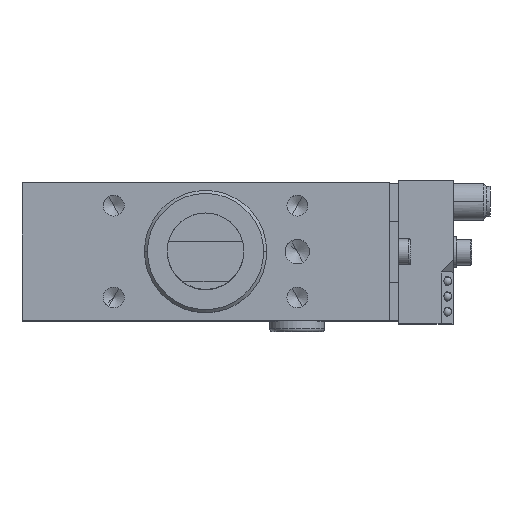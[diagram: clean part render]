
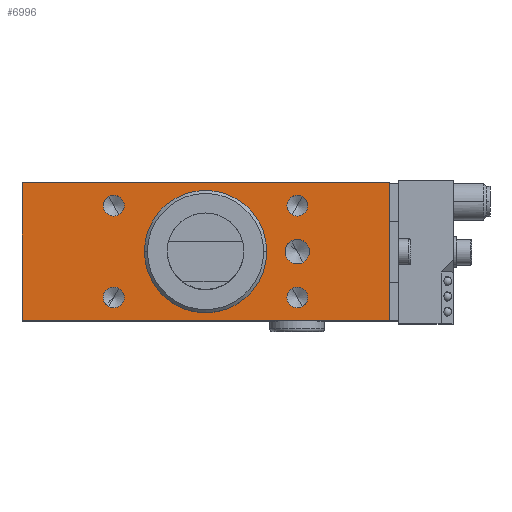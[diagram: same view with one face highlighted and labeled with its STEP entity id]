
A CAD part, top view. The second image highlights one B-rep face of the part: STEP entity #6996.
In plain terms, the highlighted planar face has unit normal (0, 0, 1).
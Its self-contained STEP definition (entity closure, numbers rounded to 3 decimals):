
#4007=AXIS2_PLACEMENT_3D('Circle Axis2P3D',#4005,#4006,$) ;
#4048=AXIS2_PLACEMENT_3D('Circle Axis2P3D',#4046,#4047,$) ;
#4550=AXIS2_PLACEMENT_3D('Circle Axis2P3D',#4548,#4549,$) ;
#4589=AXIS2_PLACEMENT_3D('Circle Axis2P3D',#4587,#4588,$) ;
#5606=AXIS2_PLACEMENT_3D('Circle Axis2P3D',#5604,#5605,$) ;
#5645=AXIS2_PLACEMENT_3D('Circle Axis2P3D',#5643,#5644,$) ;
#6082=AXIS2_PLACEMENT_3D('Circle Axis2P3D',#6080,#6081,$) ;
#6123=AXIS2_PLACEMENT_3D('Circle Axis2P3D',#6121,#6122,$) ;
#6572=AXIS2_PLACEMENT_3D('Circle Axis2P3D',#6570,#6571,$) ;
#6613=AXIS2_PLACEMENT_3D('Circle Axis2P3D',#6611,#6612,$) ;
#6931=AXIS2_PLACEMENT_3D('Plane Axis2P3D',#6928,#6929,#6930) ;
#6960=AXIS2_PLACEMENT_3D('Circle Axis2P3D',#6958,#6959,$) ;
#6969=AXIS2_PLACEMENT_3D('Circle Axis2P3D',#6967,#6968,$) ;
#3707=CARTESIAN_POINT('Vertex',(60.,-22.5,0.)) ;
#3710=CARTESIAN_POINT('Line Origine',(0.,-22.5,0.)) ;
#3714=CARTESIAN_POINT('Vertex',(-60.,-22.5,0.)) ;
#4000=CARTESIAN_POINT('Vertex',(26.,0.,0.)) ;
#4005=CARTESIAN_POINT('Axis2P3D Location',(30.,0.,0.)) ;
#4009=CARTESIAN_POINT('Vertex',(34.,0.,0.)) ;
#4046=CARTESIAN_POINT('Axis2P3D Location',(30.,0.,0.)) ;
#4545=CARTESIAN_POINT('Vertex',(33.4,15.,0.)) ;
#4548=CARTESIAN_POINT('Axis2P3D Location',(30.,15.,0.)) ;
#4552=CARTESIAN_POINT('Vertex',(26.6,15.,0.)) ;
#4587=CARTESIAN_POINT('Axis2P3D Location',(30.,15.,0.)) ;
#5601=CARTESIAN_POINT('Vertex',(-33.4,-15.,0.)) ;
#5604=CARTESIAN_POINT('Axis2P3D Location',(-30.,-15.,0.)) ;
#5608=CARTESIAN_POINT('Vertex',(-26.6,-15.,0.)) ;
#5643=CARTESIAN_POINT('Axis2P3D Location',(-30.,-15.,0.)) ;
#6075=CARTESIAN_POINT('Vertex',(33.4,-15.,0.)) ;
#6080=CARTESIAN_POINT('Axis2P3D Location',(30.,-15.,0.)) ;
#6084=CARTESIAN_POINT('Vertex',(26.6,-15.,0.)) ;
#6121=CARTESIAN_POINT('Axis2P3D Location',(30.,-15.,0.)) ;
#6565=CARTESIAN_POINT('Vertex',(-33.4,15.,0.)) ;
#6570=CARTESIAN_POINT('Axis2P3D Location',(-30.,15.,0.)) ;
#6574=CARTESIAN_POINT('Vertex',(-26.6,15.,0.)) ;
#6611=CARTESIAN_POINT('Axis2P3D Location',(-30.,15.,0.)) ;
#6928=CARTESIAN_POINT('Axis2P3D Location',(0.,0.,0.)) ;
#6933=CARTESIAN_POINT('Line Origine',(-60.,0.,0.)) ;
#6937=CARTESIAN_POINT('Vertex',(-60.,22.5,0.)) ;
#6940=CARTESIAN_POINT('Line Origine',(60.,0.,0.)) ;
#6944=CARTESIAN_POINT('Vertex',(60.,22.5,0.)) ;
#6947=CARTESIAN_POINT('Line Origine',(0.,22.5,0.)) ;
#6958=CARTESIAN_POINT('Axis2P3D Location',(0.,0.,0.)) ;
#6962=CARTESIAN_POINT('Vertex',(-20.,0.,0.)) ;
#6964=CARTESIAN_POINT('Vertex',(20.,0.,0.)) ;
#6967=CARTESIAN_POINT('Axis2P3D Location',(0.,0.,0.)) ;
#3711=DIRECTION('Vector Direction',(-1.,0.,0.)) ;
#4006=DIRECTION('Axis2P3D Direction',(0.,0.,1.)) ;
#4047=DIRECTION('Axis2P3D Direction',(0.,0.,1.)) ;
#4549=DIRECTION('Axis2P3D Direction',(0.,0.,-1.)) ;
#4588=DIRECTION('Axis2P3D Direction',(0.,0.,-1.)) ;
#5605=DIRECTION('Axis2P3D Direction',(0.,0.,-1.)) ;
#5644=DIRECTION('Axis2P3D Direction',(0.,0.,-1.)) ;
#6081=DIRECTION('Axis2P3D Direction',(0.,0.,1.)) ;
#6122=DIRECTION('Axis2P3D Direction',(0.,0.,1.)) ;
#6571=DIRECTION('Axis2P3D Direction',(0.,0.,1.)) ;
#6612=DIRECTION('Axis2P3D Direction',(0.,0.,1.)) ;
#6929=DIRECTION('Axis2P3D Direction',(0.,0.,1.)) ;
#6930=DIRECTION('Axis2P3D XDirection',(0.,-1.,0.)) ;
#6934=DIRECTION('Vector Direction',(0.,1.,0.)) ;
#6941=DIRECTION('Vector Direction',(0.,-1.,0.)) ;
#6948=DIRECTION('Vector Direction',(1.,0.,0.)) ;
#6959=DIRECTION('Axis2P3D Direction',(0.,0.,1.)) ;
#6968=DIRECTION('Axis2P3D Direction',(0.,0.,1.)) ;
#3712=VECTOR('Line Direction',#3711,1.) ;
#6935=VECTOR('Line Direction',#6934,1.) ;
#6942=VECTOR('Line Direction',#6941,1.) ;
#6949=VECTOR('Line Direction',#6948,1.) ;
#6953=ORIENTED_EDGE('',*,*,#6939,.T.) ;
#6954=ORIENTED_EDGE('',*,*,#3716,.T.) ;
#6955=ORIENTED_EDGE('',*,*,#6946,.T.) ;
#6956=ORIENTED_EDGE('',*,*,#6951,.T.) ;
#6973=ORIENTED_EDGE('',*,*,#6966,.T.) ;
#6974=ORIENTED_EDGE('',*,*,#6971,.T.) ;
#6977=ORIENTED_EDGE('',*,*,#6576,.F.) ;
#6978=ORIENTED_EDGE('',*,*,#6615,.F.) ;
#6981=ORIENTED_EDGE('',*,*,#5647,.T.) ;
#6982=ORIENTED_EDGE('',*,*,#5610,.T.) ;
#6985=ORIENTED_EDGE('',*,*,#4591,.T.) ;
#6986=ORIENTED_EDGE('',*,*,#4554,.T.) ;
#6989=ORIENTED_EDGE('',*,*,#6125,.F.) ;
#6990=ORIENTED_EDGE('',*,*,#6086,.F.) ;
#6993=ORIENTED_EDGE('',*,*,#4011,.F.) ;
#6994=ORIENTED_EDGE('',*,*,#4050,.F.) ;
#6975=FACE_BOUND('',#6972,.T.) ;
#6979=FACE_BOUND('',#6976,.T.) ;
#6983=FACE_BOUND('',#6980,.T.) ;
#6987=FACE_BOUND('',#6984,.T.) ;
#6991=FACE_BOUND('',#6988,.T.) ;
#6995=FACE_BOUND('',#6992,.T.) ;
#6996=ADVANCED_FACE('SZK_63_1_BR3_A22_T12_TUENKERS',(#6957,#6975,#6979,#6983,#6987,#6991,#6995),#6932,.T.) ;
#4008=CIRCLE('generated circle',#4007,4.) ;
#4049=CIRCLE('generated circle',#4048,4.) ;
#4551=CIRCLE('generated circle',#4550,3.4) ;
#4590=CIRCLE('generated circle',#4589,3.4) ;
#5607=CIRCLE('generated circle',#5606,3.4) ;
#5646=CIRCLE('generated circle',#5645,3.4) ;
#6083=CIRCLE('generated circle',#6082,3.4) ;
#6124=CIRCLE('generated circle',#6123,3.4) ;
#6573=CIRCLE('generated circle',#6572,3.4) ;
#6614=CIRCLE('generated circle',#6613,3.4) ;
#6961=CIRCLE('generated circle',#6960,20.) ;
#6970=CIRCLE('generated circle',#6969,20.) ;
#3716=EDGE_CURVE('',#3715,#3708,#3713,.F.) ;
#4011=EDGE_CURVE('',#4001,#4010,#4008,.T.) ;
#4050=EDGE_CURVE('',#4010,#4001,#4049,.T.) ;
#4554=EDGE_CURVE('',#4553,#4546,#4551,.T.) ;
#4591=EDGE_CURVE('',#4546,#4553,#4590,.T.) ;
#5610=EDGE_CURVE('',#5609,#5602,#5607,.T.) ;
#5647=EDGE_CURVE('',#5602,#5609,#5646,.T.) ;
#6086=EDGE_CURVE('',#6076,#6085,#6083,.T.) ;
#6125=EDGE_CURVE('',#6085,#6076,#6124,.T.) ;
#6576=EDGE_CURVE('',#6566,#6575,#6573,.T.) ;
#6615=EDGE_CURVE('',#6575,#6566,#6614,.T.) ;
#6939=EDGE_CURVE('',#6938,#3715,#6936,.F.) ;
#6946=EDGE_CURVE('',#3708,#6945,#6943,.F.) ;
#6951=EDGE_CURVE('',#6945,#6938,#6950,.F.) ;
#6966=EDGE_CURVE('',#6963,#6965,#6961,.F.) ;
#6971=EDGE_CURVE('',#6965,#6963,#6970,.F.) ;
#6952=EDGE_LOOP('',(#6953,#6954,#6955,#6956)) ;
#6972=EDGE_LOOP('',(#6973,#6974)) ;
#6976=EDGE_LOOP('',(#6977,#6978)) ;
#6980=EDGE_LOOP('',(#6981,#6982)) ;
#6984=EDGE_LOOP('',(#6985,#6986)) ;
#6988=EDGE_LOOP('',(#6989,#6990)) ;
#6992=EDGE_LOOP('',(#6993,#6994)) ;
#6957=FACE_OUTER_BOUND('',#6952,.T.) ;
#3713=LINE('Line',#3710,#3712) ;
#6936=LINE('Line',#6933,#6935) ;
#6943=LINE('Line',#6940,#6942) ;
#6950=LINE('Line',#6947,#6949) ;
#6932=PLANE('Plane',#6931) ;
#3708=VERTEX_POINT('',#3707) ;
#3715=VERTEX_POINT('',#3714) ;
#4001=VERTEX_POINT('',#4000) ;
#4010=VERTEX_POINT('',#4009) ;
#4546=VERTEX_POINT('',#4545) ;
#4553=VERTEX_POINT('',#4552) ;
#5602=VERTEX_POINT('',#5601) ;
#5609=VERTEX_POINT('',#5608) ;
#6076=VERTEX_POINT('',#6075) ;
#6085=VERTEX_POINT('',#6084) ;
#6566=VERTEX_POINT('',#6565) ;
#6575=VERTEX_POINT('',#6574) ;
#6938=VERTEX_POINT('',#6937) ;
#6945=VERTEX_POINT('',#6944) ;
#6963=VERTEX_POINT('',#6962) ;
#6965=VERTEX_POINT('',#6964) ;
